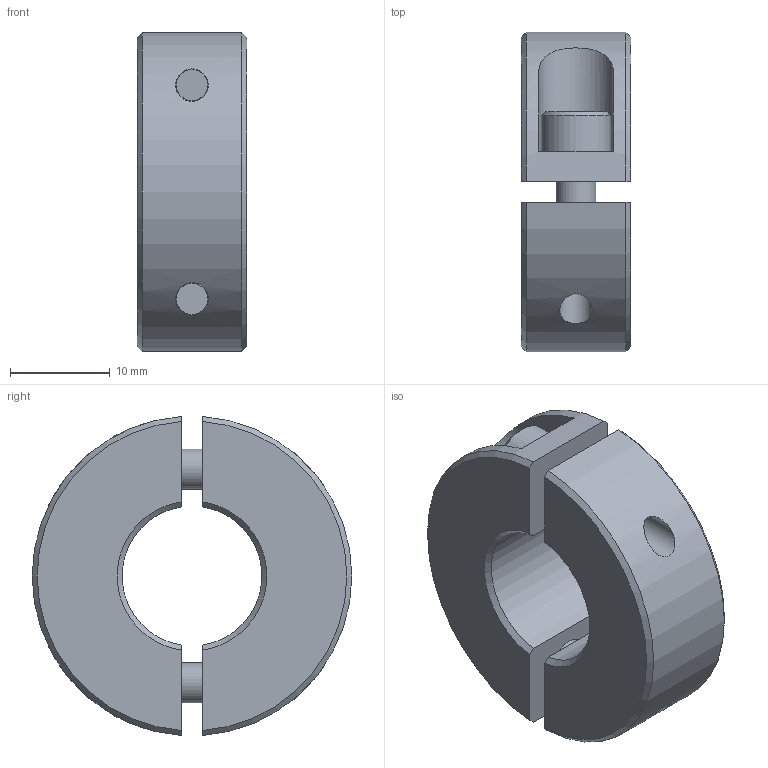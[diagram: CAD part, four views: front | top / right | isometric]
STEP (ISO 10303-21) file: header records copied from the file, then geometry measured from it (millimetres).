
FILE_DESCRIPTION(/* description */ ('STEP AP214'),/* implementation_level */ '2;1');
FILE_NAME(/* name */ 'Split Shaft Collar_ Aluminum GN 707.2-32-B14-AL',/* time_stamp */ '2024-06-10T15:26:27+02:00',/* author */ ('License CC BY-ND 4.0'),/* organization */ ('CADENAS'),/* preprocessor_version */ 'ST-DEVELOPER v19.3',/* originating_system */ 'PARTsolutions',/* authorisation */ ' ');
FILE_SCHEMA (('AUTOMOTIVE_DESIGN {1 0 10303 214 3 1 1}'));
Length unit declared in the file: millimetre
Products named in the file (1): Split Shaft Collar, Aluminum GN 707.2-32-B14-AL
Bounding box: 11 x 32 x 31.93 mm (x, y, z)
Volume: 6167.9 mm3; surface area: 3757.2 mm2
Topology: 1 solids, 1 shells, 72 faces, 168 edges, 108 vertices
Faces by surface type: plane 44, cylinder 14, cone 14
Full cylindrical faces by diameter (mm): 3.242 x2, 4 x2, 4.3 x2, 7 x2
Entity records: 2506 total; most frequent: CARTESIAN_POINT 421, DIRECTION 324, ORIENTED_EDGE 292, EDGE_CURVE 146, AXIS2_PLACEMENT_3D 125, VERTEX_POINT 102, FACE_BOUND 100, EDGE_LOOP 98
